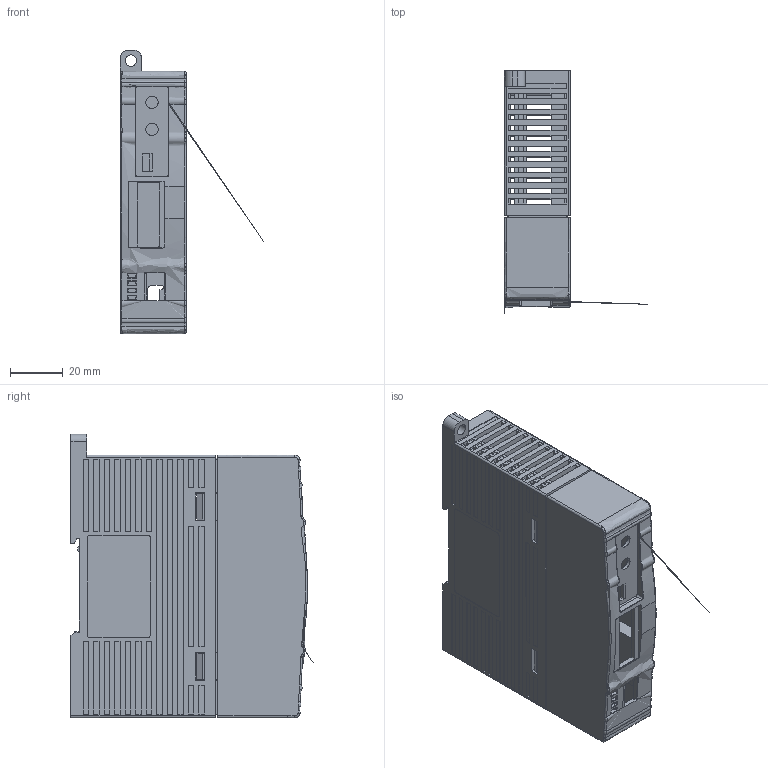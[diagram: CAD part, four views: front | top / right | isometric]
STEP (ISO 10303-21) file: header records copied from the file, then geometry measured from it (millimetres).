
FILE_DESCRIPTION(('STEP AP242'), '1');
FILE_NAME('XD-COBOX-ED_1', '2025-03-26T15:33:57', (''), ('PROMPOWER'), 'C3D Converter', 'C3D Toolkit', '');
FILE_SCHEMA(('AP242_MANAGED_MODEL_BASED_3D_ENGINEERING_MIM_LF { 1 0 10303 442 1 1 4 }'));
Length unit declared in the file: millimetre
Products named in the file (1): PMP-COBOX-ED PROMPOWER
Bounding box: 54.5 x 92.14 x 108 mm (x, y, z)
Surface area: 57571.8 mm2 (no closed solid volume)
Topology: 0 solids, 4 shells, 1140 faces, 3339 edges, 2166 vertices
Faces by surface type: plane 933, bspline 207
Entity records: 142408 total; most frequent: CARTESIAN_POINT 105958, ORIENTED_EDGE 6594, DIRECTION 4119, EDGE_CURVE 3328, LINE 2253, VECTOR 2253, VERTEX_POINT 2175, FACE_BOUND 1243
